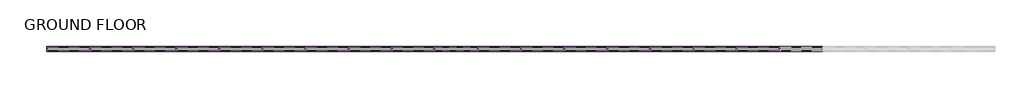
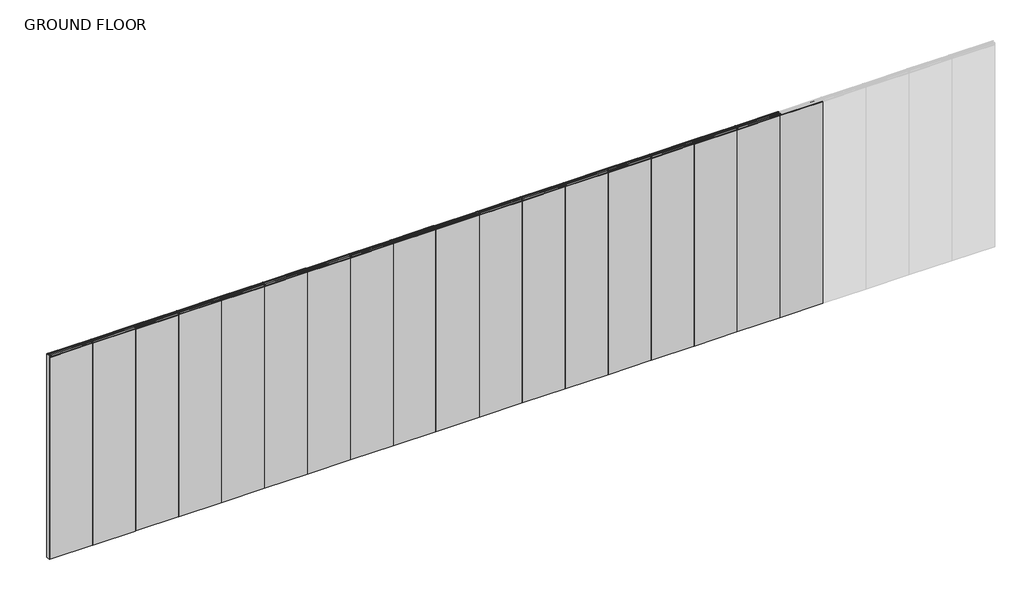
# One storey, part 1 of 2: 53 members, 18 plates.
"""IFC4 building model written with IfcOpenShell, lengths in millimetres."""

from ifc_helpers import new_model, si_unit, origin, place, context, project, spatial, transform, mapped, element, save
from components import rectangular_mullion_stud_mullion_51mm_2ef0a27f, rectangular_mullion_stud_mullion_51mm_a2fb9e12, rectangular_mullion_stud_mullion_51mm_92998b61, rectangular_mullion_stud_mullion_51mm_b3de19a5, rectangular_mullion_stud_mullion_51mm_6ea5e37d, rectangular_mullion_stud_mullion_51mm_a03bd563, rectangular_mullion_stud_mullion_51mm_d7622182, rectangular_mullion_stud_mullion_51mm_8a3d9f1b, plate_2_layer_drywall_panels_2_layer_12mm_thick_drywall_a247d09f, plate_2_layer_drywall_panels_2_layer_12mm_thick_drywall_85e85d50, plate_2_layer_drywall_panels_2_layer_12mm_thick_drywall_00b88ad9

model = new_model("IFC4")

# Units and contexts
model_context = context("Model", 3, world=origin())
ifc_project = project(units=[si_unit("LENGTHUNIT", "METRE", prefix="MILLI")], contexts=[model_context])

# Site, building, storey
site = spatial("IfcSite", under=ifc_project)
building = spatial("IfcBuilding", under=site)
storey = spatial("IfcBuildingStorey", under=building, Name="GROUND FLOOR", Elevation=0.0)

# Members
placement = place(None, origin())
rectangular_mullion_stud_mullion_51mm_shape = rectangular_mullion_stud_mullion_51mm_2ef0a27f(model_context)
element("IfcMember", 1, ObjectType="Rectangular Mullion : Stud Mullion - 51mm", at=placement, inside=storey, context=model_context, shape_type="MappedRepresentation", body=[
    mapped(rectangular_mullion_stud_mullion_51mm_shape, transform((61654.5186508, 4740.5989557, 0.0), x_axis=(0.0, 0.0, -1.0), y_axis=(0.0, -1.0, 0.0), z_axis=(-1.0, 0.0, 0.0))),
])
element("IfcMember", 2, ObjectType="Rectangular Mullion : Stud Mullion - 51mm", at=placement, inside=storey, context=model_context, shape_type="MappedRepresentation", body=[
    mapped(rectangular_mullion_stud_mullion_51mm_shape, transform((62254.5186511, 4740.5989557, 0.0), x_axis=(0.0, 0.0, -1.0), y_axis=(0.0, -1.0, 0.0), z_axis=(-1.0, 0.0, 0.0))),
])
element("IfcMember", 3, ObjectType="Rectangular Mullion : Stud Mullion - 51mm", at=placement, inside=storey, context=model_context, shape_type="MappedRepresentation", body=[
    mapped(rectangular_mullion_stud_mullion_51mm_shape, transform((62854.5186511, 4740.5989557, 0.0), x_axis=(0.0, 0.0, -1.0), y_axis=(0.0, -1.0, 0.0), z_axis=(-1.0, 0.0, 0.0))),
])
element("IfcMember", 4, ObjectType="Rectangular Mullion : Stud Mullion - 51mm", at=placement, inside=storey, context=model_context, shape_type="MappedRepresentation", body=[
    mapped(rectangular_mullion_stud_mullion_51mm_shape, transform((63454.5186511, 4740.5989557, 0.0), x_axis=(0.0, 0.0, -1.0), y_axis=(0.0, -1.0, 0.0), z_axis=(-1.0, 0.0, 0.0))),
])
element("IfcMember", 5, ObjectType="Rectangular Mullion : Stud Mullion - 51mm", at=placement, inside=storey, context=model_context, shape_type="MappedRepresentation", body=[
    mapped(rectangular_mullion_stud_mullion_51mm_shape, transform((64054.5186511, 4740.5989557, 0.0), x_axis=(0.0, 0.0, -1.0), y_axis=(0.0, -1.0, 0.0), z_axis=(-1.0, 0.0, 0.0))),
])
element("IfcMember", 6, ObjectType="Rectangular Mullion : Stud Mullion - 51mm", at=placement, inside=storey, context=model_context, shape_type="MappedRepresentation", body=[
    mapped(rectangular_mullion_stud_mullion_51mm_shape, transform((64654.5186511, 4740.5989557, 0.0), x_axis=(0.0, 0.0, -1.0), y_axis=(0.0, -1.0, 0.0), z_axis=(-1.0, 0.0, 0.0))),
])
element("IfcMember", 7, ObjectType="Rectangular Mullion : Stud Mullion - 51mm", at=placement, inside=storey, context=model_context, shape_type="MappedRepresentation", body=[
    mapped(rectangular_mullion_stud_mullion_51mm_shape, transform((65254.5186511, 4740.5989557, 0.0), x_axis=(0.0, 0.0, -1.0), y_axis=(0.0, -1.0, 0.0), z_axis=(-1.0, 0.0, 0.0))),
])
element("IfcMember", 8, ObjectType="Rectangular Mullion : Stud Mullion - 51mm", at=placement, inside=storey, context=model_context, shape_type="MappedRepresentation", body=[
    mapped(rectangular_mullion_stud_mullion_51mm_shape, transform((65854.5186511, 4740.5989557, 0.0), x_axis=(0.0, 0.0, -1.0), y_axis=(0.0, -1.0, 0.0), z_axis=(-1.0, 0.0, 0.0))),
])
element("IfcMember", 9, ObjectType="Rectangular Mullion : Stud Mullion - 51mm", at=placement, inside=storey, context=model_context, shape_type="MappedRepresentation", body=[
    mapped(rectangular_mullion_stud_mullion_51mm_shape, transform((67654.5186511, 4740.5989557, 0.0), x_axis=(0.0, 0.0, -1.0), y_axis=(0.0, -1.0, 0.0), z_axis=(-1.0, 0.0, 0.0))),
])
element("IfcMember", 10, ObjectType="Rectangular Mullion : Stud Mullion - 51mm", at=placement, inside=storey, context=model_context, shape_type="MappedRepresentation", body=[
    mapped(rectangular_mullion_stud_mullion_51mm_shape, transform((68254.5186511, 4740.5989557, 0.0), x_axis=(0.0, 0.0, -1.0), y_axis=(0.0, -1.0, 0.0), z_axis=(-1.0, 0.0, 0.0))),
])
element("IfcMember", 11, ObjectType="Rectangular Mullion : Stud Mullion - 51mm", at=placement, inside=storey, context=model_context, shape_type="MappedRepresentation", body=[
    mapped(rectangular_mullion_stud_mullion_51mm_shape, transform((68854.5186511, 4740.5989557, 0.0), x_axis=(0.0, 0.0, -1.0), y_axis=(0.0, -1.0, 0.0), z_axis=(-1.0, 0.0, 0.0))),
])
element("IfcMember", 12, ObjectType="Rectangular Mullion : Stud Mullion - 51mm", at=placement, inside=storey, context=model_context, shape_type="MappedRepresentation", body=[
    mapped(rectangular_mullion_stud_mullion_51mm_shape, transform((69454.5186511, 4740.5989557, 0.0), x_axis=(0.0, 0.0, -1.0), y_axis=(0.0, -1.0, 0.0), z_axis=(-1.0, 0.0, 0.0))),
])
element("IfcMember", 13, ObjectType="Rectangular Mullion : Stud Mullion - 51mm", at=placement, inside=storey, context=model_context, shape_type="MappedRepresentation", body=[
    mapped(rectangular_mullion_stud_mullion_51mm_shape, transform((70054.5186511, 4740.5989557, 0.0), x_axis=(0.0, 0.0, -1.0), y_axis=(0.0, -1.0, 0.0), z_axis=(-1.0, 0.0, 0.0))),
])
element("IfcMember", 14, ObjectType="Rectangular Mullion : Stud Mullion - 51mm", at=placement, inside=storey, context=model_context, shape_type="MappedRepresentation", body=[
    mapped(rectangular_mullion_stud_mullion_51mm_shape, transform((70654.5186511, 4740.5989557, 0.0), x_axis=(0.0, 0.0, -1.0), y_axis=(0.0, -1.0, 0.0), z_axis=(-1.0, 0.0, 0.0))),
])
element("IfcMember", 15, ObjectType="Rectangular Mullion : Stud Mullion - 51mm", at=placement, inside=storey, context=model_context, shape_type="MappedRepresentation", body=[
    mapped(rectangular_mullion_stud_mullion_51mm_shape, transform((71254.5186511, 4740.5989557, 0.0), x_axis=(0.0, 0.0, -1.0), y_axis=(0.0, -1.0, 0.0), z_axis=(-1.0, 0.0, 0.0))),
])
element("IfcMember", 16, ObjectType="Rectangular Mullion : Stud Mullion - 51mm", at=placement, inside=storey, context=model_context, shape_type="MappedRepresentation", body=[
    mapped(rectangular_mullion_stud_mullion_51mm_shape, transform((71854.5186511, 4740.5989557, 0.0), x_axis=(0.0, 0.0, -1.0), y_axis=(0.0, -1.0, 0.0), z_axis=(-1.0, 0.0, 0.0))),
])
rectangular_mullion_stud_mullion_51mm_2_shape = rectangular_mullion_stud_mullion_51mm_a2fb9e12(model_context)
element("IfcMember", 17, ObjectType="Rectangular Mullion : Stud Mullion - 51mm", at=placement, inside=storey, context=model_context, shape_type="MappedRepresentation", body=[
    mapped(rectangular_mullion_stud_mullion_51mm_2_shape, transform((61635.5186508, 4740.5989557, 3000.0), x_axis=(-1.0, 0.0, 0.0), y_axis=(0.0, -1.0, 0.0), z_axis=(0.0, 0.0, 1.0))),
])
rectangular_mullion_stud_mullion_51mm_3_shape = rectangular_mullion_stud_mullion_51mm_92998b61(model_context)
element("IfcMember", 18, ObjectType="Rectangular Mullion : Stud Mullion - 51mm", at=placement, inside=storey, context=model_context, shape_type="MappedRepresentation", body=[
    mapped(rectangular_mullion_stud_mullion_51mm_3_shape, transform((62235.5186511, 4740.5989557, 3000.0), x_axis=(0.0, 0.0, 1.0), y_axis=(0.0, -1.0, 0.0), z_axis=(1.0, 0.0, 0.0))),
])
element("IfcMember", 19, ObjectType="Rectangular Mullion : Stud Mullion - 51mm", at=placement, inside=storey, context=model_context, shape_type="MappedRepresentation", body=[
    mapped(rectangular_mullion_stud_mullion_51mm_3_shape, transform((62835.5186511, 4740.5989557, 3000.0), x_axis=(0.0, 0.0, 1.0), y_axis=(0.0, -1.0, 0.0), z_axis=(1.0, 0.0, 0.0))),
])
element("IfcMember", 20, ObjectType="Rectangular Mullion : Stud Mullion - 51mm", at=placement, inside=storey, context=model_context, shape_type="MappedRepresentation", body=[
    mapped(rectangular_mullion_stud_mullion_51mm_3_shape, transform((63435.5186511, 4740.5989557, 3000.0), x_axis=(0.0, 0.0, 1.0), y_axis=(0.0, -1.0, 0.0), z_axis=(1.0, 0.0, 0.0))),
])
element("IfcMember", 21, ObjectType="Rectangular Mullion : Stud Mullion - 51mm", at=placement, inside=storey, context=model_context, shape_type="MappedRepresentation", body=[
    mapped(rectangular_mullion_stud_mullion_51mm_3_shape, transform((64035.5186511, 4740.5989557, 3000.0), x_axis=(0.0, 0.0, 1.0), y_axis=(0.0, -1.0, 0.0), z_axis=(1.0, 0.0, 0.0))),
])
element("IfcMember", 22, ObjectType="Rectangular Mullion : Stud Mullion - 51mm", at=placement, inside=storey, context=model_context, shape_type="MappedRepresentation", body=[
    mapped(rectangular_mullion_stud_mullion_51mm_3_shape, transform((64635.5186511, 4740.5989557, 3000.0), x_axis=(0.0, 0.0, 1.0), y_axis=(0.0, -1.0, 0.0), z_axis=(1.0, 0.0, 0.0))),
])
element("IfcMember", 23, ObjectType="Rectangular Mullion : Stud Mullion - 51mm", at=placement, inside=storey, context=model_context, shape_type="MappedRepresentation", body=[
    mapped(rectangular_mullion_stud_mullion_51mm_3_shape, transform((65235.5186511, 4740.5989557, 3000.0), x_axis=(0.0, 0.0, 1.0), y_axis=(0.0, -1.0, 0.0), z_axis=(1.0, 0.0, 0.0))),
])
element("IfcMember", 24, ObjectType="Rectangular Mullion : Stud Mullion - 51mm", at=placement, inside=storey, context=model_context, shape_type="MappedRepresentation", body=[
    mapped(rectangular_mullion_stud_mullion_51mm_3_shape, transform((65835.5186511, 4740.5989557, 3000.0), x_axis=(0.0, 0.0, 1.0), y_axis=(0.0, -1.0, 0.0), z_axis=(1.0, 0.0, 0.0))),
])
element("IfcMember", 25, ObjectType="Rectangular Mullion : Stud Mullion - 51mm", at=placement, inside=storey, context=model_context, shape_type="MappedRepresentation", body=[
    mapped(rectangular_mullion_stud_mullion_51mm_3_shape, transform((66435.5186511, 4740.5989557, 3000.0), x_axis=(0.0, 0.0, 1.0), y_axis=(0.0, -1.0, 0.0), z_axis=(1.0, 0.0, 0.0))),
])
element("IfcMember", 26, ObjectType="Rectangular Mullion : Stud Mullion - 51mm", at=placement, inside=storey, context=model_context, shape_type="MappedRepresentation", body=[
    mapped(rectangular_mullion_stud_mullion_51mm_3_shape, transform((68235.5186511, 4740.5989557, 3000.0), x_axis=(0.0, 0.0, 1.0), y_axis=(0.0, -1.0, 0.0), z_axis=(1.0, 0.0, 0.0))),
])
element("IfcMember", 27, ObjectType="Rectangular Mullion : Stud Mullion - 51mm", at=placement, inside=storey, context=model_context, shape_type="MappedRepresentation", body=[
    mapped(rectangular_mullion_stud_mullion_51mm_3_shape, transform((68835.5186511, 4740.5989557, 3000.0), x_axis=(0.0, 0.0, 1.0), y_axis=(0.0, -1.0, 0.0), z_axis=(1.0, 0.0, 0.0))),
])
element("IfcMember", 28, ObjectType="Rectangular Mullion : Stud Mullion - 51mm", at=placement, inside=storey, context=model_context, shape_type="MappedRepresentation", body=[
    mapped(rectangular_mullion_stud_mullion_51mm_3_shape, transform((69435.5186511, 4740.5989557, 3000.0), x_axis=(0.0, 0.0, 1.0), y_axis=(0.0, -1.0, 0.0), z_axis=(1.0, 0.0, 0.0))),
])
element("IfcMember", 29, ObjectType="Rectangular Mullion : Stud Mullion - 51mm", at=placement, inside=storey, context=model_context, shape_type="MappedRepresentation", body=[
    mapped(rectangular_mullion_stud_mullion_51mm_3_shape, transform((70035.5186511, 4740.5989557, 3000.0), x_axis=(0.0, 0.0, 1.0), y_axis=(0.0, -1.0, 0.0), z_axis=(1.0, 0.0, 0.0))),
])
element("IfcMember", 30, ObjectType="Rectangular Mullion : Stud Mullion - 51mm", at=placement, inside=storey, context=model_context, shape_type="MappedRepresentation", body=[
    mapped(rectangular_mullion_stud_mullion_51mm_3_shape, transform((70635.5186511, 4740.5989557, 3000.0), x_axis=(0.0, 0.0, 1.0), y_axis=(0.0, -1.0, 0.0), z_axis=(1.0, 0.0, 0.0))),
])
element("IfcMember", 31, ObjectType="Rectangular Mullion : Stud Mullion - 51mm", at=placement, inside=storey, context=model_context, shape_type="MappedRepresentation", body=[
    mapped(rectangular_mullion_stud_mullion_51mm_3_shape, transform((71235.5186511, 4740.5989557, 3000.0), x_axis=(0.0, 0.0, 1.0), y_axis=(0.0, -1.0, 0.0), z_axis=(1.0, 0.0, 0.0))),
])
element("IfcMember", 32, ObjectType="Rectangular Mullion : Stud Mullion - 51mm", at=placement, inside=storey, context=model_context, shape_type="MappedRepresentation", body=[
    mapped(rectangular_mullion_stud_mullion_51mm_3_shape, transform((71835.5186511, 4740.5989557, 3000.0), x_axis=(0.0, 0.0, 1.0), y_axis=(0.0, -1.0, 0.0), z_axis=(1.0, 0.0, 0.0))),
])
rectangular_mullion_stud_mullion_51mm_4_shape = rectangular_mullion_stud_mullion_51mm_b3de19a5(model_context)
element("IfcMember", 33, ObjectType="Rectangular Mullion : Stud Mullion - 51mm", at=placement, inside=storey, context=model_context, shape_type="MappedRepresentation", body=[
    mapped(rectangular_mullion_stud_mullion_51mm_4_shape, transform((67027.6186513, 4740.5989557, 3000.0), x_axis=(0.0, 0.0, 1.0), y_axis=(0.0, -1.0, 0.0), z_axis=(1.0, 0.0, 0.0))),
])
rectangular_mullion_stud_mullion_51mm_5_shape = rectangular_mullion_stud_mullion_51mm_6ea5e37d(model_context)
element("IfcMember", 34, ObjectType="Rectangular Mullion : Stud Mullion - 51mm", at=placement, inside=storey, context=model_context, shape_type="MappedRepresentation", body=[
    mapped(rectangular_mullion_stud_mullion_51mm_5_shape, transform((67635.5186511, 4740.5989557, 3000.0), x_axis=(0.0, 0.0, 1.0), y_axis=(0.0, -1.0, 0.0), z_axis=(1.0, 0.0, 0.0))),
])
rectangular_mullion_stud_mullion_51mm_6_shape = rectangular_mullion_stud_mullion_51mm_a03bd563(model_context)
element("IfcMember", 35, ObjectType="Rectangular Mullion : Stud Mullion - 51mm", at=placement, inside=storey, context=model_context, shape_type="MappedRepresentation", body=[
    mapped(rectangular_mullion_stud_mullion_51mm_6_shape, transform((66454.5186511, 4740.5989557, 0.0), x_axis=(0.0, 0.0, -1.0), y_axis=(0.0, -1.0, 0.0), z_axis=(-1.0, 0.0, 0.0))),
])
rectangular_mullion_stud_mullion_51mm_7_shape = rectangular_mullion_stud_mullion_51mm_d7622182(model_context)
element("IfcMember", 36, ObjectType="Rectangular Mullion : Stud Mullion - 51mm", at=placement, inside=storey, context=model_context, shape_type="MappedRepresentation", body=[
    mapped(rectangular_mullion_stud_mullion_51mm_7_shape, transform((67046.6186513, 4740.5989557, 0.0), x_axis=(0.0, 0.0, -1.0), y_axis=(0.0, -1.0, 0.0), z_axis=(-1.0, 0.0, 0.0))),
])
rectangular_mullion_stud_mullion_51mm_8_shape = rectangular_mullion_stud_mullion_51mm_8a3d9f1b(model_context)
element("IfcMember", 37, ObjectType="Rectangular Mullion : Stud Mullion - 51mm", at=placement, inside=storey, context=model_context, shape_type="MappedRepresentation", body=[
    mapped(rectangular_mullion_stud_mullion_51mm_8_shape, transform((62245.0186511, 4740.5989557, 0.0), x_axis=(1.0, 0.0, 0.0), y_axis=(0.0, -1.0, 0.0), z_axis=(0.0, 0.0, -1.0))),
])
element("IfcMember", 38, ObjectType="Rectangular Mullion : Stud Mullion - 51mm", at=placement, inside=storey, context=model_context, shape_type="MappedRepresentation", body=[
    mapped(rectangular_mullion_stud_mullion_51mm_8_shape, transform((62845.0186511, 4740.5989557, 0.0), x_axis=(1.0, 0.0, 0.0), y_axis=(0.0, -1.0, 0.0), z_axis=(0.0, 0.0, -1.0))),
])
element("IfcMember", 39, ObjectType="Rectangular Mullion : Stud Mullion - 51mm", at=placement, inside=storey, context=model_context, shape_type="MappedRepresentation", body=[
    mapped(rectangular_mullion_stud_mullion_51mm_8_shape, transform((63445.0186511, 4740.5989557, 0.0), x_axis=(1.0, 0.0, 0.0), y_axis=(0.0, -1.0, 0.0), z_axis=(0.0, 0.0, -1.0))),
])
element("IfcMember", 40, ObjectType="Rectangular Mullion : Stud Mullion - 51mm", at=placement, inside=storey, context=model_context, shape_type="MappedRepresentation", body=[
    mapped(rectangular_mullion_stud_mullion_51mm_8_shape, transform((64045.0186511, 4740.5989557, 0.0), x_axis=(1.0, 0.0, 0.0), y_axis=(0.0, -1.0, 0.0), z_axis=(0.0, 0.0, -1.0))),
])
element("IfcMember", 41, ObjectType="Rectangular Mullion : Stud Mullion - 51mm", at=placement, inside=storey, context=model_context, shape_type="MappedRepresentation", body=[
    mapped(rectangular_mullion_stud_mullion_51mm_8_shape, transform((64645.0186511, 4740.5989557, 0.0), x_axis=(1.0, 0.0, 0.0), y_axis=(0.0, -1.0, 0.0), z_axis=(0.0, 0.0, -1.0))),
])
element("IfcMember", 42, ObjectType="Rectangular Mullion : Stud Mullion - 51mm", at=placement, inside=storey, context=model_context, shape_type="MappedRepresentation", body=[
    mapped(rectangular_mullion_stud_mullion_51mm_8_shape, transform((65245.0186511, 4740.5989557, 0.0), x_axis=(1.0, 0.0, 0.0), y_axis=(0.0, -1.0, 0.0), z_axis=(0.0, 0.0, -1.0))),
])
element("IfcMember", 43, ObjectType="Rectangular Mullion : Stud Mullion - 51mm", at=placement, inside=storey, context=model_context, shape_type="MappedRepresentation", body=[
    mapped(rectangular_mullion_stud_mullion_51mm_8_shape, transform((65845.0186511, 4740.5989557, 0.0), x_axis=(1.0, 0.0, 0.0), y_axis=(0.0, -1.0, 0.0), z_axis=(0.0, 0.0, -1.0))),
])
element("IfcMember", 44, ObjectType="Rectangular Mullion : Stud Mullion - 51mm", at=placement, inside=storey, context=model_context, shape_type="MappedRepresentation", body=[
    mapped(rectangular_mullion_stud_mullion_51mm_8_shape, transform((66445.0186511, 4740.5989557, 0.0), x_axis=(1.0, 0.0, 0.0), y_axis=(0.0, -1.0, 0.0), z_axis=(0.0, 0.0, -1.0))),
])
element("IfcMember", 45, ObjectType="Rectangular Mullion : Stud Mullion - 51mm", at=placement, inside=storey, context=model_context, shape_type="MappedRepresentation", body=[
    mapped(rectangular_mullion_stud_mullion_51mm_8_shape, transform((67037.1186513, 4740.5989557, 0.0), x_axis=(1.0, 0.0, 0.0), y_axis=(0.0, -1.0, 0.0), z_axis=(0.0, 0.0, -1.0))),
])
element("IfcMember", 46, ObjectType="Rectangular Mullion : Stud Mullion - 51mm", at=placement, inside=storey, context=model_context, shape_type="MappedRepresentation", body=[
    mapped(rectangular_mullion_stud_mullion_51mm_8_shape, transform((67645.0186511, 4740.5989557, 0.0), x_axis=(1.0, 0.0, 0.0), y_axis=(0.0, -1.0, 0.0), z_axis=(0.0, 0.0, -1.0))),
])
element("IfcMember", 47, ObjectType="Rectangular Mullion : Stud Mullion - 51mm", at=placement, inside=storey, context=model_context, shape_type="MappedRepresentation", body=[
    mapped(rectangular_mullion_stud_mullion_51mm_8_shape, transform((68245.0186511, 4740.5989557, 0.0), x_axis=(1.0, 0.0, 0.0), y_axis=(0.0, -1.0, 0.0), z_axis=(0.0, 0.0, -1.0))),
])
element("IfcMember", 48, ObjectType="Rectangular Mullion : Stud Mullion - 51mm", at=placement, inside=storey, context=model_context, shape_type="MappedRepresentation", body=[
    mapped(rectangular_mullion_stud_mullion_51mm_8_shape, transform((68845.0186511, 4740.5989557, 0.0), x_axis=(1.0, 0.0, 0.0), y_axis=(0.0, -1.0, 0.0), z_axis=(0.0, 0.0, -1.0))),
])
element("IfcMember", 49, ObjectType="Rectangular Mullion : Stud Mullion - 51mm", at=placement, inside=storey, context=model_context, shape_type="MappedRepresentation", body=[
    mapped(rectangular_mullion_stud_mullion_51mm_8_shape, transform((69445.0186511, 4740.5989557, 0.0), x_axis=(1.0, 0.0, 0.0), y_axis=(0.0, -1.0, 0.0), z_axis=(0.0, 0.0, -1.0))),
])
element("IfcMember", 50, ObjectType="Rectangular Mullion : Stud Mullion - 51mm", at=placement, inside=storey, context=model_context, shape_type="MappedRepresentation", body=[
    mapped(rectangular_mullion_stud_mullion_51mm_8_shape, transform((70045.0186511, 4740.5989557, 0.0), x_axis=(1.0, 0.0, 0.0), y_axis=(0.0, -1.0, 0.0), z_axis=(0.0, 0.0, -1.0))),
])
element("IfcMember", 51, ObjectType="Rectangular Mullion : Stud Mullion - 51mm", at=placement, inside=storey, context=model_context, shape_type="MappedRepresentation", body=[
    mapped(rectangular_mullion_stud_mullion_51mm_8_shape, transform((70645.0186511, 4740.5989557, 0.0), x_axis=(1.0, 0.0, 0.0), y_axis=(0.0, -1.0, 0.0), z_axis=(0.0, 0.0, -1.0))),
])
element("IfcMember", 52, ObjectType="Rectangular Mullion : Stud Mullion - 51mm", at=placement, inside=storey, context=model_context, shape_type="MappedRepresentation", body=[
    mapped(rectangular_mullion_stud_mullion_51mm_8_shape, transform((71245.0186511, 4740.5989557, 0.0), x_axis=(1.0, 0.0, 0.0), y_axis=(0.0, -1.0, 0.0), z_axis=(0.0, 0.0, -1.0))),
])
element("IfcMember", 53, ObjectType="Rectangular Mullion : Stud Mullion - 51mm", at=placement, inside=storey, context=model_context, shape_type="MappedRepresentation", body=[
    mapped(rectangular_mullion_stud_mullion_51mm_8_shape, transform((71845.0186511, 4740.5989557, 0.0), x_axis=(1.0, 0.0, 0.0), y_axis=(0.0, -1.0, 0.0), z_axis=(0.0, 0.0, -1.0))),
])

# Plates
plate_2_layer_drywall_panels_2_layer_12mm_thick_drywall_shape = plate_2_layer_drywall_panels_2_layer_12mm_thick_drywall_a247d09f(model_context)
element("IfcPlate", 54, ObjectType="2 Layer - Drywall Panels : 2 Layer - 12mm thick Drywall Panels 76mm", at=placement, inside=storey, context=model_context, shape_type="MappedRepresentation", body=[
    mapped(plate_2_layer_drywall_panels_2_layer_12mm_thick_drywall_shape, transform((61936.318651, 4740.5989557, 1.6), x_axis=(1.0, 0.0, 0.0), y_axis=(0.0, 1.0, 0.0), z_axis=(0.0, 0.0, 1.0))),
])
element("IfcPlate", 55, ObjectType="2 Layer - Drywall Panels : 2 Layer - 12mm thick Drywall Panels 76mm", at=placement, inside=storey, context=model_context, shape_type="MappedRepresentation", body=[
    mapped(plate_2_layer_drywall_panels_2_layer_12mm_thick_drywall_shape, transform((62536.3186511, 4740.5989557, 1.6), x_axis=(1.0, 0.0, 0.0), y_axis=(0.0, 1.0, 0.0), z_axis=(0.0, 0.0, 1.0))),
])
element("IfcPlate", 56, ObjectType="2 Layer - Drywall Panels : 2 Layer - 12mm thick Drywall Panels 76mm", at=placement, inside=storey, context=model_context, shape_type="MappedRepresentation", body=[
    mapped(plate_2_layer_drywall_panels_2_layer_12mm_thick_drywall_shape, transform((63136.3186511, 4740.5989557, 1.6), x_axis=(1.0, 0.0, 0.0), y_axis=(0.0, 1.0, 0.0), z_axis=(0.0, 0.0, 1.0))),
])
element("IfcPlate", 57, ObjectType="2 Layer - Drywall Panels : 2 Layer - 12mm thick Drywall Panels 76mm", at=placement, inside=storey, context=model_context, shape_type="MappedRepresentation", body=[
    mapped(plate_2_layer_drywall_panels_2_layer_12mm_thick_drywall_shape, transform((63736.3186511, 4740.5989557, 1.6), x_axis=(1.0, 0.0, 0.0), y_axis=(0.0, 1.0, 0.0), z_axis=(0.0, 0.0, 1.0))),
])
element("IfcPlate", 58, ObjectType="2 Layer - Drywall Panels : 2 Layer - 12mm thick Drywall Panels 76mm", at=placement, inside=storey, context=model_context, shape_type="MappedRepresentation", body=[
    mapped(plate_2_layer_drywall_panels_2_layer_12mm_thick_drywall_shape, transform((64336.3186511, 4740.5989557, 1.6), x_axis=(1.0, 0.0, 0.0), y_axis=(0.0, 1.0, 0.0), z_axis=(0.0, 0.0, 1.0))),
])
element("IfcPlate", 59, ObjectType="2 Layer - Drywall Panels : 2 Layer - 12mm thick Drywall Panels 76mm", at=placement, inside=storey, context=model_context, shape_type="MappedRepresentation", body=[
    mapped(plate_2_layer_drywall_panels_2_layer_12mm_thick_drywall_shape, transform((64936.3186511, 4740.5989557, 1.6), x_axis=(1.0, 0.0, 0.0), y_axis=(0.0, 1.0, 0.0), z_axis=(0.0, 0.0, 1.0))),
])
element("IfcPlate", 60, ObjectType="2 Layer - Drywall Panels : 2 Layer - 12mm thick Drywall Panels 76mm", at=placement, inside=storey, context=model_context, shape_type="MappedRepresentation", body=[
    mapped(plate_2_layer_drywall_panels_2_layer_12mm_thick_drywall_shape, transform((65536.3186511, 4740.5989557, 1.6), x_axis=(1.0, 0.0, 0.0), y_axis=(0.0, 1.0, 0.0), z_axis=(0.0, 0.0, 1.0))),
])
element("IfcPlate", 61, ObjectType="2 Layer - Drywall Panels : 2 Layer - 12mm thick Drywall Panels 76mm", at=placement, inside=storey, context=model_context, shape_type="MappedRepresentation", body=[
    mapped(plate_2_layer_drywall_panels_2_layer_12mm_thick_drywall_shape, transform((66136.3186511, 4740.5989557, 1.6), x_axis=(1.0, 0.0, 0.0), y_axis=(0.0, 1.0, 0.0), z_axis=(0.0, 0.0, 1.0))),
])
element("IfcPlate", 62, ObjectType="2 Layer - Drywall Panels : 2 Layer - 12mm thick Drywall Panels 76mm", at=placement, inside=storey, context=model_context, shape_type="MappedRepresentation", body=[
    mapped(plate_2_layer_drywall_panels_2_layer_12mm_thick_drywall_shape, transform((67936.3186511, 4740.5989557, 1.6), x_axis=(1.0, 0.0, 0.0), y_axis=(0.0, 1.0, 0.0), z_axis=(0.0, 0.0, 1.0))),
])
element("IfcPlate", 63, ObjectType="2 Layer - Drywall Panels : 2 Layer - 12mm thick Drywall Panels 76mm", at=placement, inside=storey, context=model_context, shape_type="MappedRepresentation", body=[
    mapped(plate_2_layer_drywall_panels_2_layer_12mm_thick_drywall_shape, transform((68536.3186511, 4740.5989557, 1.6), x_axis=(1.0, 0.0, 0.0), y_axis=(0.0, 1.0, 0.0), z_axis=(0.0, 0.0, 1.0))),
])
element("IfcPlate", 64, ObjectType="2 Layer - Drywall Panels : 2 Layer - 12mm thick Drywall Panels 76mm", at=placement, inside=storey, context=model_context, shape_type="MappedRepresentation", body=[
    mapped(plate_2_layer_drywall_panels_2_layer_12mm_thick_drywall_shape, transform((69136.3186511, 4740.5989557, 1.6), x_axis=(1.0, 0.0, 0.0), y_axis=(0.0, 1.0, 0.0), z_axis=(0.0, 0.0, 1.0))),
])
element("IfcPlate", 65, ObjectType="2 Layer - Drywall Panels : 2 Layer - 12mm thick Drywall Panels 76mm", at=placement, inside=storey, context=model_context, shape_type="MappedRepresentation", body=[
    mapped(plate_2_layer_drywall_panels_2_layer_12mm_thick_drywall_shape, transform((69736.3186511, 4740.5989557, 1.6), x_axis=(1.0, 0.0, 0.0), y_axis=(0.0, 1.0, 0.0), z_axis=(0.0, 0.0, 1.0))),
])
element("IfcPlate", 66, ObjectType="2 Layer - Drywall Panels : 2 Layer - 12mm thick Drywall Panels 76mm", at=placement, inside=storey, context=model_context, shape_type="MappedRepresentation", body=[
    mapped(plate_2_layer_drywall_panels_2_layer_12mm_thick_drywall_shape, transform((70336.3186511, 4740.5989557, 1.6), x_axis=(1.0, 0.0, 0.0), y_axis=(0.0, 1.0, 0.0), z_axis=(0.0, 0.0, 1.0))),
])
element("IfcPlate", 67, ObjectType="2 Layer - Drywall Panels : 2 Layer - 12mm thick Drywall Panels 76mm", at=placement, inside=storey, context=model_context, shape_type="MappedRepresentation", body=[
    mapped(plate_2_layer_drywall_panels_2_layer_12mm_thick_drywall_shape, transform((70936.3186511, 4740.5989557, 1.6), x_axis=(1.0, 0.0, 0.0), y_axis=(0.0, 1.0, 0.0), z_axis=(0.0, 0.0, 1.0))),
])
element("IfcPlate", 68, ObjectType="2 Layer - Drywall Panels : 2 Layer - 12mm thick Drywall Panels 76mm", at=placement, inside=storey, context=model_context, shape_type="MappedRepresentation", body=[
    mapped(plate_2_layer_drywall_panels_2_layer_12mm_thick_drywall_shape, transform((71536.3186511, 4740.5989557, 1.6), x_axis=(1.0, 0.0, 0.0), y_axis=(0.0, 1.0, 0.0), z_axis=(0.0, 0.0, 1.0))),
])
element("IfcPlate", 69, ObjectType="2 Layer - Drywall Panels : 2 Layer - 12mm thick Drywall Panels 76mm", at=placement, inside=storey, context=model_context, shape_type="MappedRepresentation", body=[
    mapped(plate_2_layer_drywall_panels_2_layer_12mm_thick_drywall_shape, transform((72136.3186511, 4740.5989557, 1.6), x_axis=(1.0, 0.0, 0.0), y_axis=(0.0, 1.0, 0.0), z_axis=(0.0, 0.0, 1.0))),
])
plate_2_layer_drywall_panels_2_layer_12mm_thick_drywall_2_shape = plate_2_layer_drywall_panels_2_layer_12mm_thick_drywall_85e85d50(model_context)
element("IfcPlate", 70, ObjectType="2 Layer - Drywall Panels : 2 Layer - 12mm thick Drywall Panels 76mm", at=placement, inside=storey, context=model_context, shape_type="MappedRepresentation", body=[
    mapped(plate_2_layer_drywall_panels_2_layer_12mm_thick_drywall_2_shape, transform((66732.3686512, 4740.5989557, 1.6), x_axis=(1.0, 0.0, 0.0), y_axis=(0.0, 1.0, 0.0), z_axis=(0.0, 0.0, 1.0))),
])
plate_2_layer_drywall_panels_2_layer_12mm_thick_drywall_3_shape = plate_2_layer_drywall_panels_2_layer_12mm_thick_drywall_00b88ad9(model_context)
element("IfcPlate", 71, ObjectType="2 Layer - Drywall Panels : 2 Layer - 12mm thick Drywall Panels 76mm", at=placement, inside=storey, context=model_context, shape_type="MappedRepresentation", body=[
    mapped(plate_2_layer_drywall_panels_2_layer_12mm_thick_drywall_3_shape, transform((67332.3686512, 4740.5989557, 1.6), x_axis=(1.0, 0.0, 0.0), y_axis=(0.0, 1.0, 0.0), z_axis=(0.0, 0.0, 1.0))),
])

save(model, "model.ifc")
